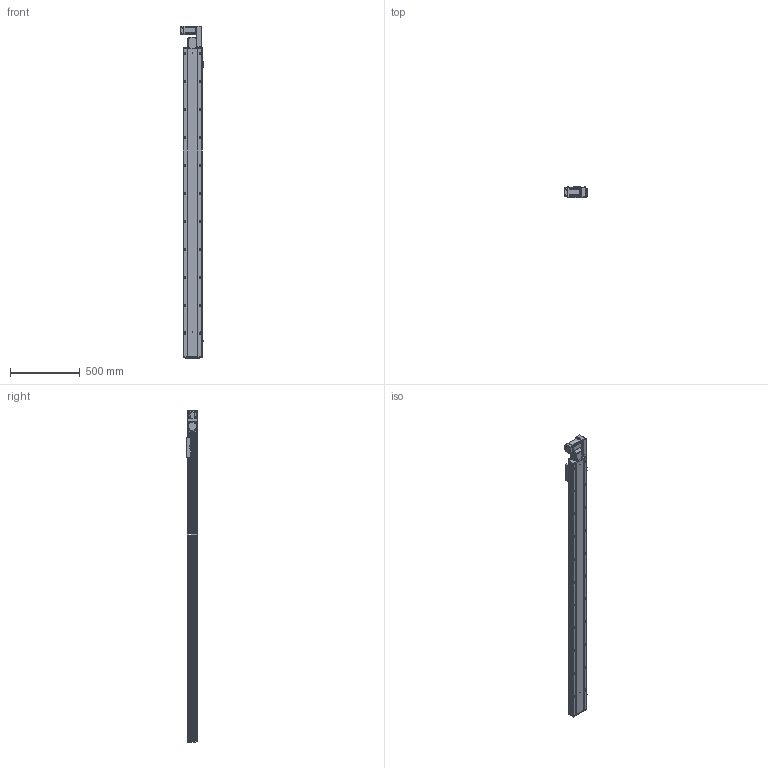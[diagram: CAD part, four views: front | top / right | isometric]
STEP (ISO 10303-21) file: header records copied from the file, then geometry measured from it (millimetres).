
FILE_DESCRIPTION (( 'STEP AP203' ), '1' );
FILE_NAME ('RY140-T-300-RK.SLDASM_1950.step', '2021-03-01T06:47:12', ( '盈信电脑' ), ( '东莞市道滘镇水果街19号' ), 'SwSTEP 2.0', 'SolidWorks 2012', '' );
FILE_SCHEMA (( 'CONFIG_CONTROL_DESIGN' ));
Products named in the file (17): RY120-T主同步轮轴承压盖; 15; RY140-T-300-RK.SLDASM_1950; RY120-T蹟翐M4; RY140-T萇儂欶; RY140-T萇儂假蚾啣; RY140-T翋肮謫裔啣; RY140-T翋肮祭謫盓傅釱; 滅袉蝶18-10; RY120外置感应片(140共用）; RY120-T肮祭湍揤踡輸2; RY120-T肮祭湍揤踡輸1; 覜茼ん672; RY140綴裔啣; RY140-T-300-DR倰第奻裔啣_1950; RY140肮祭謫臏賑輸; RY140-T-300-DR倰第菁釱_1950
Assembly tree (22 placements, depth 2):
  RY140-T-300-RK.SLDASM_1950
    RY140-T-300-DR倰第菁釱_1950
    RY140肮祭謫臏賑輸
    RY140-T-300-DR倰第奻裔啣_1950
    RY140綴裔啣
    覜茼ん672  x3
    RY120外置感应片(140共用）
    RY120-T肮祭湍揤踡輸2
    RY120-T肮祭湍揤踡輸1
    RY140-T翋肮祭謫盓傅釱
    滅袉蝶18-10  x2
    RY140-T翋肮謫裔啣
    RY140-T萇儂欶
    RY140-T萇儂假蚾啣
    RY120-T蹟翐M4  x4
    15
    RY120-T主同步轮轴承压盖
Bounding box: 170.7 x 78 x 2376.5 mm (x, y, z)
Volume: 6269734 mm3; surface area: 2451875.6 mm2
Topology: 22 solids, 22 shells, 2863 faces, 7857 edges, 5000 vertices
Faces by surface type: plane 1381, cylinder 1096, cone 286, bspline 100
Entity records: 90398 total; most frequent: CARTESIAN_POINT 21967, ORIENTED_EDGE 14074, DIRECTION 13461, EDGE_CURVE 7037, VERTEX_POINT 4599, AXIS2_PLACEMENT_3D 4526, LINE 4409, VECTOR 4409
